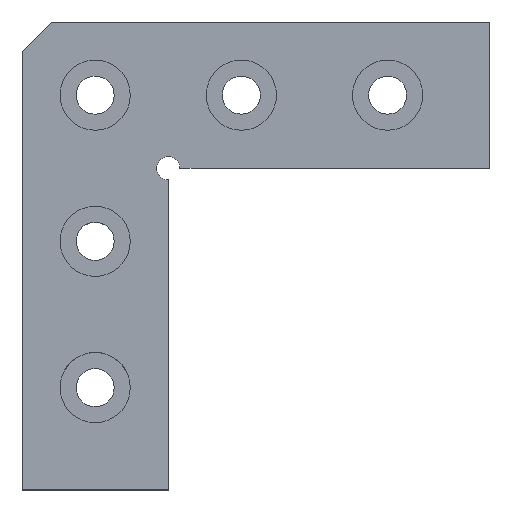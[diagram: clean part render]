
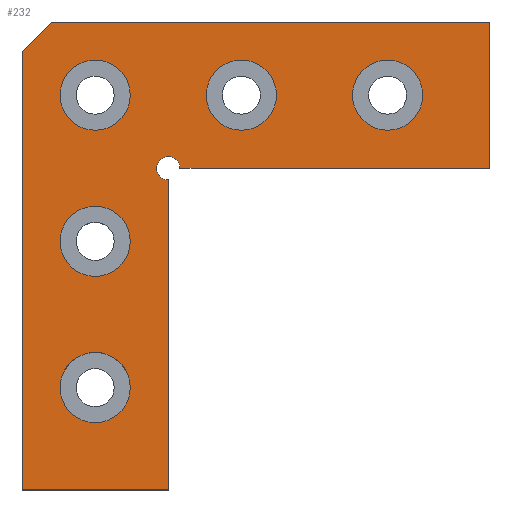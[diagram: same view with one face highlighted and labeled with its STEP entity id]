
A CAD part, top view. The second image highlights one B-rep face of the part: STEP entity #232.
In plain terms, the highlighted planar face has unit normal (0, 0, 1).
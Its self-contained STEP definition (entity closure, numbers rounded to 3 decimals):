
#62=AXIS2_PLACEMENT_3D('Circle Axis2P3D',#60,#61,$) ;
#75=AXIS2_PLACEMENT_3D('Plane Axis2P3D',#72,#73,#74) ;
#128=AXIS2_PLACEMENT_3D('Circle Axis2P3D',#126,#127,$) ;
#144=AXIS2_PLACEMENT_3D('Circle Axis2P3D',#142,#143,$) ;
#153=AXIS2_PLACEMENT_3D('Circle Axis2P3D',#151,#152,$) ;
#162=AXIS2_PLACEMENT_3D('Circle Axis2P3D',#160,#161,$) ;
#171=AXIS2_PLACEMENT_3D('Circle Axis2P3D',#169,#170,$) ;
#180=AXIS2_PLACEMENT_3D('Circle Axis2P3D',#178,#179,$) ;
#189=AXIS2_PLACEMENT_3D('Circle Axis2P3D',#187,#188,$) ;
#198=AXIS2_PLACEMENT_3D('Circle Axis2P3D',#196,#197,$) ;
#207=AXIS2_PLACEMENT_3D('Circle Axis2P3D',#205,#206,$) ;
#216=AXIS2_PLACEMENT_3D('Circle Axis2P3D',#214,#215,$) ;
#225=AXIS2_PLACEMENT_3D('Circle Axis2P3D',#223,#224,$) ;
#41=CARTESIAN_POINT('Vertex',(25.,-27.,10.)) ;
#57=CARTESIAN_POINT('Vertex',(23.,-25.,10.)) ;
#60=CARTESIAN_POINT('Axis2P3D Location',(25.,-25.,10.)) ;
#72=CARTESIAN_POINT('Axis2P3D Location',(0.,0.,10.)) ;
#77=CARTESIAN_POINT('Line Origine',(53.5,-25.,10.)) ;
#81=CARTESIAN_POINT('Vertex',(27.,-25.,10.)) ;
#83=CARTESIAN_POINT('Vertex',(80.,-25.,10.)) ;
#86=CARTESIAN_POINT('Line Origine',(80.,-12.5,10.)) ;
#90=CARTESIAN_POINT('Vertex',(80.,0.,10.)) ;
#93=CARTESIAN_POINT('Line Origine',(42.5,0.,10.)) ;
#97=CARTESIAN_POINT('Vertex',(5.,0.,10.)) ;
#100=CARTESIAN_POINT('Line Origine',(2.5,-2.5,10.)) ;
#104=CARTESIAN_POINT('Vertex',(0.,-5.,10.)) ;
#107=CARTESIAN_POINT('Line Origine',(0.,-42.5,10.)) ;
#111=CARTESIAN_POINT('Vertex',(0.,-80.,10.)) ;
#114=CARTESIAN_POINT('Line Origine',(12.5,-80.,10.)) ;
#118=CARTESIAN_POINT('Vertex',(25.,-80.,10.)) ;
#121=CARTESIAN_POINT('Line Origine',(25.,-53.5,10.)) ;
#126=CARTESIAN_POINT('Axis2P3D Location',(25.,-25.,10.)) ;
#142=CARTESIAN_POINT('Axis2P3D Location',(12.5,-12.5,10.)) ;
#146=CARTESIAN_POINT('Vertex',(18.5,-12.5,10.)) ;
#148=CARTESIAN_POINT('Vertex',(6.5,-12.5,10.)) ;
#151=CARTESIAN_POINT('Axis2P3D Location',(12.5,-12.5,10.)) ;
#160=CARTESIAN_POINT('Axis2P3D Location',(12.5,-37.5,10.)) ;
#164=CARTESIAN_POINT('Vertex',(18.5,-37.5,10.)) ;
#166=CARTESIAN_POINT('Vertex',(6.5,-37.5,10.)) ;
#169=CARTESIAN_POINT('Axis2P3D Location',(12.5,-37.5,10.)) ;
#178=CARTESIAN_POINT('Axis2P3D Location',(12.5,-62.5,10.)) ;
#182=CARTESIAN_POINT('Vertex',(18.5,-62.5,10.)) ;
#184=CARTESIAN_POINT('Vertex',(6.5,-62.5,10.)) ;
#187=CARTESIAN_POINT('Axis2P3D Location',(12.5,-62.5,10.)) ;
#196=CARTESIAN_POINT('Axis2P3D Location',(37.5,-12.5,10.)) ;
#200=CARTESIAN_POINT('Vertex',(43.5,-12.5,10.)) ;
#202=CARTESIAN_POINT('Vertex',(31.5,-12.5,10.)) ;
#205=CARTESIAN_POINT('Axis2P3D Location',(37.5,-12.5,10.)) ;
#214=CARTESIAN_POINT('Axis2P3D Location',(62.5,-12.5,10.)) ;
#218=CARTESIAN_POINT('Vertex',(68.5,-12.5,10.)) ;
#220=CARTESIAN_POINT('Vertex',(56.5,-12.5,10.)) ;
#223=CARTESIAN_POINT('Axis2P3D Location',(62.5,-12.5,10.)) ;
#61=DIRECTION('Axis2P3D Direction',(0.,0.,1.)) ;
#73=DIRECTION('Axis2P3D Direction',(0.,0.,1.)) ;
#74=DIRECTION('Axis2P3D XDirection',(1.,0.,0.)) ;
#78=DIRECTION('Vector Direction',(1.,0.,0.)) ;
#87=DIRECTION('Vector Direction',(0.,-1.,0.)) ;
#94=DIRECTION('Vector Direction',(1.,0.,0.)) ;
#101=DIRECTION('Vector Direction',(0.707,0.707,0.)) ;
#108=DIRECTION('Vector Direction',(0.,-1.,0.)) ;
#115=DIRECTION('Vector Direction',(1.,0.,0.)) ;
#122=DIRECTION('Vector Direction',(0.,1.,0.)) ;
#127=DIRECTION('Axis2P3D Direction',(0.,0.,1.)) ;
#143=DIRECTION('Axis2P3D Direction',(0.,0.,1.)) ;
#152=DIRECTION('Axis2P3D Direction',(0.,0.,1.)) ;
#161=DIRECTION('Axis2P3D Direction',(0.,0.,1.)) ;
#170=DIRECTION('Axis2P3D Direction',(0.,0.,1.)) ;
#179=DIRECTION('Axis2P3D Direction',(0.,0.,1.)) ;
#188=DIRECTION('Axis2P3D Direction',(0.,0.,1.)) ;
#197=DIRECTION('Axis2P3D Direction',(0.,0.,1.)) ;
#206=DIRECTION('Axis2P3D Direction',(0.,0.,1.)) ;
#215=DIRECTION('Axis2P3D Direction',(0.,0.,1.)) ;
#224=DIRECTION('Axis2P3D Direction',(0.,0.,1.)) ;
#79=VECTOR('Line Direction',#78,1.) ;
#88=VECTOR('Line Direction',#87,1.) ;
#95=VECTOR('Line Direction',#94,1.) ;
#102=VECTOR('Line Direction',#101,1.) ;
#109=VECTOR('Line Direction',#108,1.) ;
#116=VECTOR('Line Direction',#115,1.) ;
#123=VECTOR('Line Direction',#122,1.) ;
#132=ORIENTED_EDGE('',*,*,#85,.T.) ;
#133=ORIENTED_EDGE('',*,*,#92,.T.) ;
#134=ORIENTED_EDGE('',*,*,#99,.T.) ;
#135=ORIENTED_EDGE('',*,*,#106,.F.) ;
#136=ORIENTED_EDGE('',*,*,#113,.T.) ;
#137=ORIENTED_EDGE('',*,*,#120,.T.) ;
#138=ORIENTED_EDGE('',*,*,#125,.T.) ;
#139=ORIENTED_EDGE('',*,*,#64,.F.) ;
#140=ORIENTED_EDGE('',*,*,#130,.F.) ;
#157=ORIENTED_EDGE('',*,*,#150,.F.) ;
#158=ORIENTED_EDGE('',*,*,#155,.F.) ;
#175=ORIENTED_EDGE('',*,*,#168,.F.) ;
#176=ORIENTED_EDGE('',*,*,#173,.F.) ;
#193=ORIENTED_EDGE('',*,*,#186,.F.) ;
#194=ORIENTED_EDGE('',*,*,#191,.F.) ;
#211=ORIENTED_EDGE('',*,*,#204,.F.) ;
#212=ORIENTED_EDGE('',*,*,#209,.F.) ;
#229=ORIENTED_EDGE('',*,*,#222,.F.) ;
#230=ORIENTED_EDGE('',*,*,#227,.F.) ;
#159=FACE_BOUND('',#156,.T.) ;
#177=FACE_BOUND('',#174,.T.) ;
#195=FACE_BOUND('',#192,.T.) ;
#213=FACE_BOUND('',#210,.T.) ;
#231=FACE_BOUND('',#228,.T.) ;
#232=ADVANCED_FACE('\X2\96F64EF651E04F554F53\X0\',(#141,#159,#177,#195,#213,#231),#76,.T.) ;
#63=CIRCLE('generated circle',#62,2.) ;
#129=CIRCLE('generated circle',#128,2.) ;
#145=CIRCLE('generated circle',#144,6.) ;
#154=CIRCLE('generated circle',#153,6.) ;
#163=CIRCLE('generated circle',#162,6.) ;
#172=CIRCLE('generated circle',#171,6.) ;
#181=CIRCLE('generated circle',#180,6.) ;
#190=CIRCLE('generated circle',#189,6.) ;
#199=CIRCLE('generated circle',#198,6.) ;
#208=CIRCLE('generated circle',#207,6.) ;
#217=CIRCLE('generated circle',#216,6.) ;
#226=CIRCLE('generated circle',#225,6.) ;
#64=EDGE_CURVE('',#58,#42,#63,.T.) ;
#85=EDGE_CURVE('',#82,#84,#80,.T.) ;
#92=EDGE_CURVE('',#84,#91,#89,.F.) ;
#99=EDGE_CURVE('',#91,#98,#96,.F.) ;
#106=EDGE_CURVE('',#105,#98,#103,.T.) ;
#113=EDGE_CURVE('',#105,#112,#110,.T.) ;
#120=EDGE_CURVE('',#112,#119,#117,.T.) ;
#125=EDGE_CURVE('',#119,#42,#124,.T.) ;
#130=EDGE_CURVE('',#82,#58,#129,.T.) ;
#150=EDGE_CURVE('',#147,#149,#145,.T.) ;
#155=EDGE_CURVE('',#149,#147,#154,.T.) ;
#168=EDGE_CURVE('',#165,#167,#163,.T.) ;
#173=EDGE_CURVE('',#167,#165,#172,.T.) ;
#186=EDGE_CURVE('',#183,#185,#181,.T.) ;
#191=EDGE_CURVE('',#185,#183,#190,.T.) ;
#204=EDGE_CURVE('',#201,#203,#199,.T.) ;
#209=EDGE_CURVE('',#203,#201,#208,.T.) ;
#222=EDGE_CURVE('',#219,#221,#217,.T.) ;
#227=EDGE_CURVE('',#221,#219,#226,.T.) ;
#131=EDGE_LOOP('',(#132,#133,#134,#135,#136,#137,#138,#139,#140)) ;
#156=EDGE_LOOP('',(#157,#158)) ;
#174=EDGE_LOOP('',(#175,#176)) ;
#192=EDGE_LOOP('',(#193,#194)) ;
#210=EDGE_LOOP('',(#211,#212)) ;
#228=EDGE_LOOP('',(#229,#230)) ;
#141=FACE_OUTER_BOUND('',#131,.T.) ;
#80=LINE('Line',#77,#79) ;
#89=LINE('Line',#86,#88) ;
#96=LINE('Line',#93,#95) ;
#103=LINE('Line',#100,#102) ;
#110=LINE('Line',#107,#109) ;
#117=LINE('Line',#114,#116) ;
#124=LINE('Line',#121,#123) ;
#76=PLANE('',#75) ;
#42=VERTEX_POINT('',#41) ;
#58=VERTEX_POINT('',#57) ;
#82=VERTEX_POINT('',#81) ;
#84=VERTEX_POINT('',#83) ;
#91=VERTEX_POINT('',#90) ;
#98=VERTEX_POINT('',#97) ;
#105=VERTEX_POINT('',#104) ;
#112=VERTEX_POINT('',#111) ;
#119=VERTEX_POINT('',#118) ;
#147=VERTEX_POINT('',#146) ;
#149=VERTEX_POINT('',#148) ;
#165=VERTEX_POINT('',#164) ;
#167=VERTEX_POINT('',#166) ;
#183=VERTEX_POINT('',#182) ;
#185=VERTEX_POINT('',#184) ;
#201=VERTEX_POINT('',#200) ;
#203=VERTEX_POINT('',#202) ;
#219=VERTEX_POINT('',#218) ;
#221=VERTEX_POINT('',#220) ;
